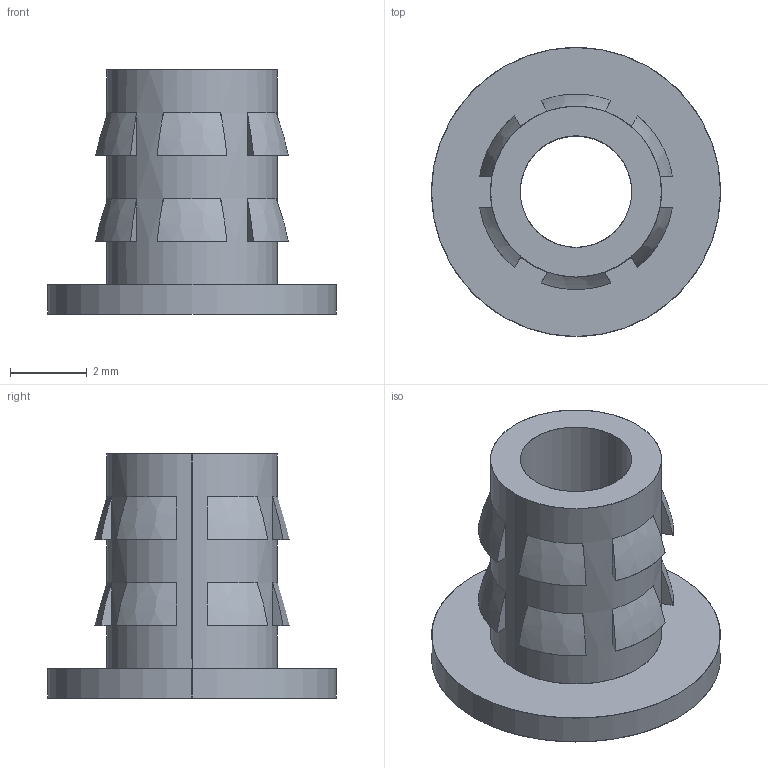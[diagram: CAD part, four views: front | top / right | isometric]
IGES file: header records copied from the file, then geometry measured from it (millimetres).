
Start section: SolidWorks IGES file using analytic representation for surfaces
Global section: file name: G:\thermofab project\INSERT\insert project\INSERT 3D\flanged insert M3.5.IGS; native system: SolidWorks 2015; preprocessor: SolidWorks 2015; author: Administrator; date: 170809.170808; units: millimetre
Bounding box: 7.52 x 7.52 x 6.35 mm (x, y, z)
Surface area: 241.7 mm2 (no closed solid volume)
Topology: 0 solids, 0 shells, 59 faces, 512 edges, 512 vertices
Faces by surface type: bspline 51, revolution 8
